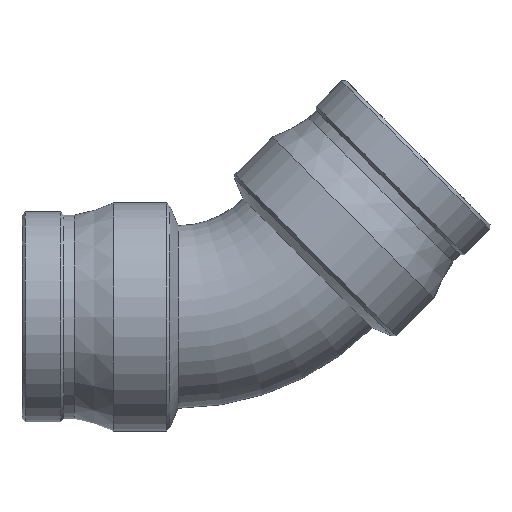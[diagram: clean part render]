
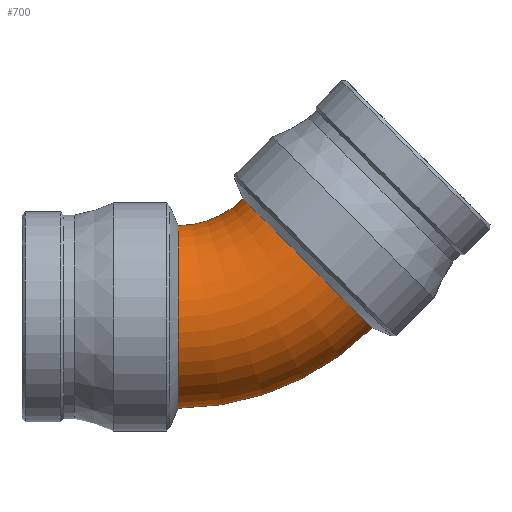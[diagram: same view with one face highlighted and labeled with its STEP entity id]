
A CAD part, front view. The second image highlights one B-rep face of the part: STEP entity #700.
In plain terms, the highlighted toroidal (fillet/blend) face has major radius 90.1 mm and minor radius 44.907 mm.
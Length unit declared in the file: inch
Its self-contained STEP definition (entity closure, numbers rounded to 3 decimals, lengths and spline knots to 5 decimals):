
#130=FACE_OUTER_BOUND('',#172,.T.);
#172=EDGE_LOOP('',(#488,#489,#490,#491,#492,#493,#494));
#229=CIRCLE('',#769,1.768);
#230=CIRCLE('',#770,1.77923);
#231=CIRCLE('',#771,1.768);
#232=CIRCLE('',#772,1.768);
#233=CIRCLE('',#773,1.768);
#234=CIRCLE('',#774,1.768);
#302=VERTEX_POINT('',#1155);
#303=VERTEX_POINT('',#1156);
#304=VERTEX_POINT('',#1158);
#305=VERTEX_POINT('',#1160);
#306=VERTEX_POINT('',#1162);
#379=EDGE_CURVE('',#302,#303,#229,.T.);
#380=EDGE_CURVE('',#302,#304,#230,.T.);
#381=EDGE_CURVE('',#305,#304,#231,.T.);
#382=EDGE_CURVE('',#306,#305,#232,.T.);
#383=EDGE_CURVE('',#304,#306,#233,.T.);
#384=EDGE_CURVE('',#303,#302,#234,.T.);
#488=ORIENTED_EDGE('',*,*,#379,.F.);
#489=ORIENTED_EDGE('',*,*,#380,.T.);
#490=ORIENTED_EDGE('',*,*,#381,.F.);
#491=ORIENTED_EDGE('',*,*,#382,.F.);
#492=ORIENTED_EDGE('',*,*,#383,.F.);
#493=ORIENTED_EDGE('',*,*,#380,.F.);
#494=ORIENTED_EDGE('',*,*,#384,.F.);
#698=TOROIDAL_SURFACE('',#768,3.54723,1.768);
#700=ADVANCED_FACE('',(#130),#698,.T.);
#768=AXIS2_PLACEMENT_3D('',#1154,#893,#894);
#769=AXIS2_PLACEMENT_3D('',#1157,#895,#896);
#770=AXIS2_PLACEMENT_3D('',#1159,#897,#898);
#771=AXIS2_PLACEMENT_3D('',#1161,#899,#900);
#772=AXIS2_PLACEMENT_3D('',#1163,#901,#902);
#773=AXIS2_PLACEMENT_3D('',#1164,#903,#904);
#774=AXIS2_PLACEMENT_3D('',#1165,#905,#906);
#893=DIRECTION('center_axis',(0.,-1.,0.));
#894=DIRECTION('ref_axis',(0.,0.,-1.));
#895=DIRECTION('center_axis',(0.707,0.,0.707));
#896=DIRECTION('ref_axis',(0.,-1.,0.));
#897=DIRECTION('center_axis',(0.,1.,0.));
#898=DIRECTION('ref_axis',(0.,0.,-1.));
#899=DIRECTION('center_axis',(-1.,0.,0.));
#900=DIRECTION('ref_axis',(0.,-1.,0.));
#901=DIRECTION('center_axis',(-1.,0.,0.));
#902=DIRECTION('ref_axis',(0.,-1.,0.));
#903=DIRECTION('center_axis',(-1.,0.,0.));
#904=DIRECTION('ref_axis',(0.,-1.,0.));
#905=DIRECTION('center_axis',(0.707,0.,0.707));
#906=DIRECTION('ref_axis',(0.,-1.,0.));
#1154=CARTESIAN_POINT('Origin',(-1.46931,0.,3.54723));
#1155=CARTESIAN_POINT('',(-0.2112,0.,2.28912));
#1156=CARTESIAN_POINT('',(1.03896,1.768,1.03896));
#1157=CARTESIAN_POINT('Origin',(1.03896,0.,1.03896));
#1158=CARTESIAN_POINT('',(-1.46931,0.,1.768));
#1159=CARTESIAN_POINT('Origin',(-1.46931,0.,
3.54723));
#1160=CARTESIAN_POINT('',(-1.46931,0.,-1.768));
#1161=CARTESIAN_POINT('Origin',(-1.46931,0.,0.));
#1162=CARTESIAN_POINT('',(-1.46931,1.768,0.));
#1163=CARTESIAN_POINT('Origin',(-1.46931,0.,0.));
#1164=CARTESIAN_POINT('Origin',(-1.46931,0.,0.));
#1165=CARTESIAN_POINT('Origin',(1.03896,0.,1.03896));
